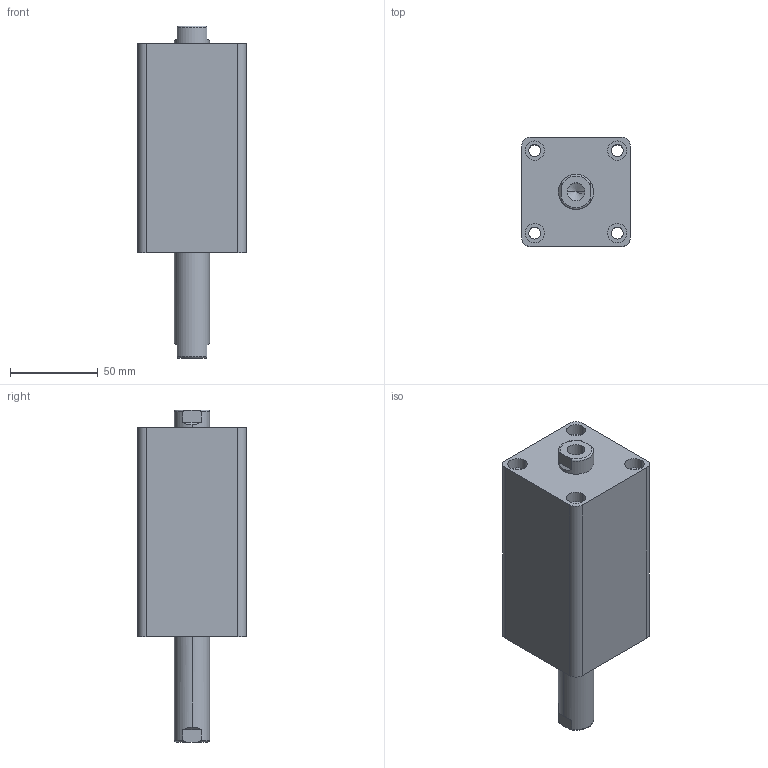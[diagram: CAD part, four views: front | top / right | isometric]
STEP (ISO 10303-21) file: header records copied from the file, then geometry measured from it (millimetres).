
FILE_DESCRIPTION (( 'STEP AP203' ), '1' );
FILE_NAME ('HTB-SW32-50N.STEP', '2019-10-07T08:54:00', ( '微软用户' ), ( '微软中国' ), 'SwSTEP 2.0', 'SolidWorks 2012', '' );
FILE_SCHEMA (( 'CONFIG_CONTROL_DESIGN' ));
Length unit declared in the file: millimetre
Products named in the file (3): HTB-SW32-50N; HTB-SW32-50N活塞杆; HTB-SW32-50掛极
Assembly tree (2 placements, depth 2):
  HTB-SW32-50N
    HTB-SW32-50掛极
    HTB-SW32-50N活塞杆
Bounding box: 62 x 62 x 189 mm (x, y, z)
Volume: 426872.9 mm3; surface area: 72809 mm2
Topology: 2 solids, 2 shells, 100 faces, 228 edges, 146 vertices
Faces by surface type: cylinder 48, plane 32, torus 12, cone 8
Entity records: 3237 total; most frequent: CARTESIAN_POINT 595, DIRECTION 542, ORIENTED_EDGE 448, AXIS2_PLACEMENT_3D 229, EDGE_CURVE 224, VERTEX_POINT 146, EDGE_LOOP 128, CIRCLE 124
